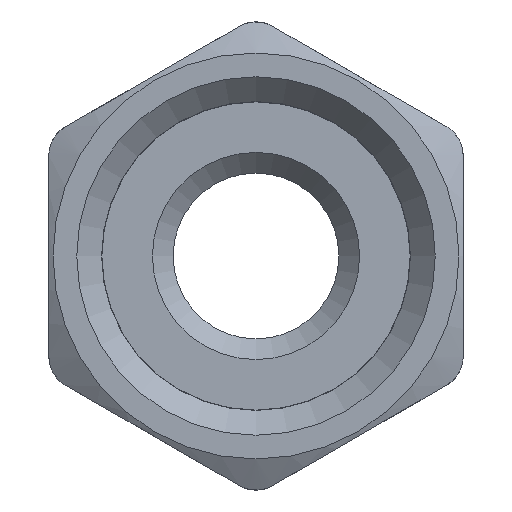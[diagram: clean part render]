
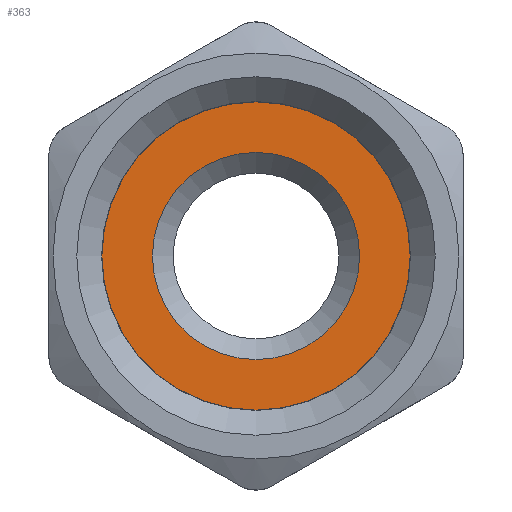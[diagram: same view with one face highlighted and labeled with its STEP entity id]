
A CAD part, front view. The second image highlights one B-rep face of the part: STEP entity #363.
In plain terms, the highlighted planar face has unit normal (0, -1, 0).
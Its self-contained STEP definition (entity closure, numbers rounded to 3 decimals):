
#363=ADVANCED_FACE('',(#1074,#1076),#1078,.F.);
#1074=FACE_BOUND('',#1075,.T.);
#1075=EDGE_LOOP('',(#1340));
#1076=FACE_BOUND('',#1077,.T.);
#1077=EDGE_LOOP('',(#1341));
#1078=PLANE('',#1079);
#1079=AXIS2_PLACEMENT_3D('',#1080,#1081,#1082);
#1080=CARTESIAN_POINT('',(0.,0.,0.));
#1081=DIRECTION('',(0.,1.,0.));
#1082=DIRECTION('',(-1.,0.,0.));
#1340=ORIENTED_EDGE('',*,*,#1463,.F.);
#1341=ORIENTED_EDGE('',*,*,#1464,.T.);
#1463=EDGE_CURVE('',#1679,#1679,#1680,.T.);
#1464=EDGE_CURVE('',#1681,#1681,#1682,.T.);
#1679=VERTEX_POINT('',#3278);
#1680=CIRCLE('',#3279,9.3);
#1681=VERTEX_POINT('',#3283);
#1682=CIRCLE('',#3284,6.25);
#3278=CARTESIAN_POINT('',(-9.3,0.,0.));
#3279=AXIS2_PLACEMENT_3D('',#3280,#3281,#3282);
#3280=CARTESIAN_POINT('',(0.,0.,0.));
#3281=DIRECTION('',(0.,1.,0.));
#3282=DIRECTION('',(-1.,0.,0.));
#3283=CARTESIAN_POINT('',(-6.25,0.,0.));
#3284=AXIS2_PLACEMENT_3D('',#3285,#3286,#3287);
#3285=CARTESIAN_POINT('',(0.,0.,0.));
#3286=DIRECTION('',(0.,1.,0.));
#3287=DIRECTION('',(-1.,0.,0.));
